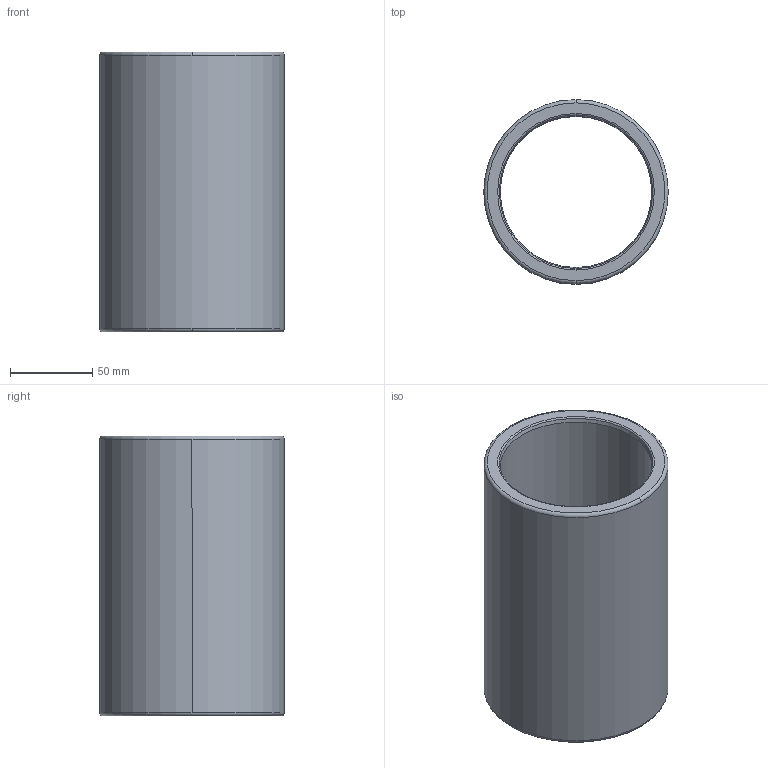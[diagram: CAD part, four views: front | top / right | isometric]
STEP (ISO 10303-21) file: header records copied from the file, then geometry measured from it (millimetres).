
FILE_DESCRIPTION((''),'2;1');
FILE_NAME('B30_080_170.stp','2009-01-12T10:31:41',(''),(''),'Mechanical Desktop 2009','Mechanical Desktop 2009',', , ');
FILE_SCHEMA(('CONFIG_CONTROL_DESIGN'));
Length unit declared in the file: millimetre
Products named in the file (2): Product; blmdl1
Assembly tree (1 placements, depth 2):
  Product
    blmdl1
Bounding box: 111.98 x 111.98 x 170 mm (x, y, z)
Volume: 543840.1 mm3; surface area: 114203.1 mm2
Topology: 1 solids, 1 shells, 18 faces, 48 edges, 32 vertices
Faces by surface type: torus 8, cylinder 4, cone 4, plane 2
Entity records: 705 total; most frequent: DIRECTION 128, CARTESIAN_POINT 100, ORIENTED_EDGE 96, AXIS2_PLACEMENT_3D 60, EDGE_CURVE 48, CIRCLE 40, VERTEX_POINT 32, EDGE_LOOP 20
